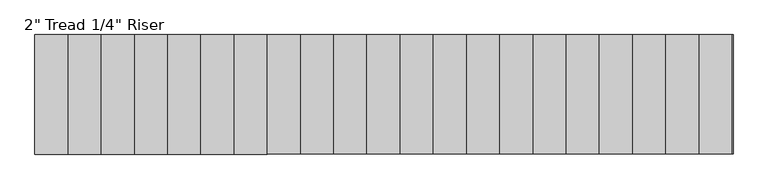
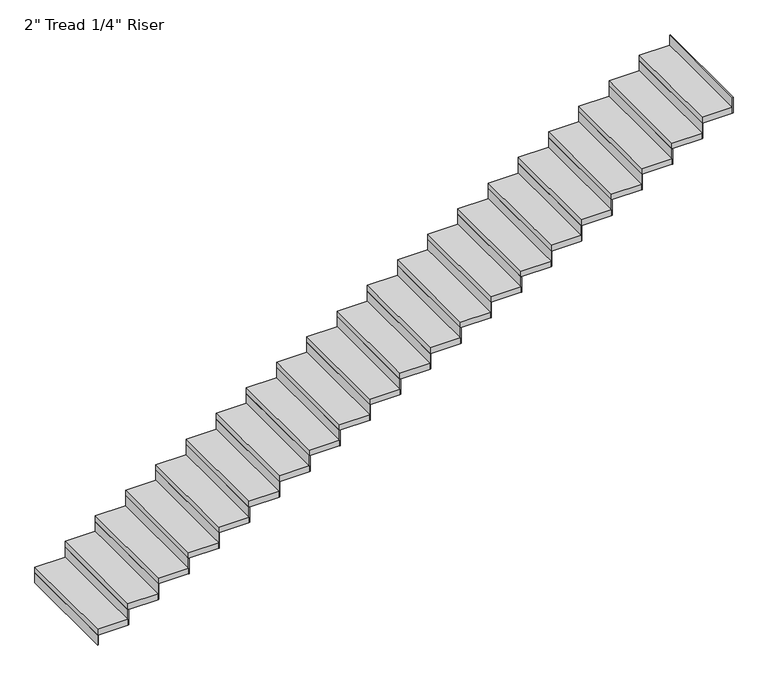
"""IFC4 building model written with IfcOpenShell, lengths in millimetres: stair flight geometry."""

import ifcopenshell
import ifcopenshell.guid

model = None  # the IFC model being written
_history = None  # IfcOwnerHistory: only IFC2X3 demands one
_inside = {}  # id of a spatial element -> (the spatial element, [elements in it])
_under = {}  # id of a project, library or spatial element -> (it, [spatial elements below it])
_declared = {}  # id of a project -> (the project, [libraries it declares])
_typed = {}  # id of a type object -> (the type object, [elements of that type])
_made_of = {}  # id of a material, layer set ... -> (it, [elements and type objects made of it])


def new_model(schema):
    """Start an empty IFC model of exactly this schema.

    Asked for "IFC4X3", IfcOpenShell would pick the latest addendum, in which some entities
    have other attributes; the version numbers below select the first issue.
    IFC2X3 requires an IfcOwnerHistory on every rooted entity: one is made here for all.
    """
    global model, _history
    if schema == "IFC4X3":
        model = ifcopenshell.file(schema_version=(4, 3, 0, 0))
    else:
        model = ifcopenshell.file(schema=schema)
    _inside.clear()
    _under.clear()
    _declared.clear()
    _typed.clear()
    _made_of.clear()
    _history = None
    if model.schema == "IFC2X3":
        org = make("IfcOrganization", Name="unknown")
        user = make(
            "IfcPersonAndOrganization",
            ThePerson=make("IfcPerson", FamilyName="unknown"),
            TheOrganization=org,
        )
        app = make(
            "IfcApplication",
            ApplicationDeveloper=org,
            Version="unknown",
            ApplicationFullName="unknown",
            ApplicationIdentifier="unknown",
        )
        _history = make(
            "IfcOwnerHistory",
            OwningUser=user,
            OwningApplication=app,
            ChangeAction="ADDED",
            CreationDate=0,
        )
    return model


def make(cls, **values):
    """One entity of the class cls with the attributes given. An attribute that is None is left unset."""
    return model.create_entity(
        cls, **{name: value for name, value in values.items() if value is not None}
    )


def rooted(cls, **values):
    """An entity with a GlobalId (a new one), such as an element, a storey or a relation."""
    return make(cls, GlobalId=ifcopenshell.guid.new(), OwnerHistory=_history, **values)


def si_unit(unit_type, name, prefix=None):
    """IfcSIUnit, for example si_unit("LENGTHUNIT", "METRE", prefix="MILLI")."""
    return make("IfcSIUnit", UnitType=unit_type, Prefix=prefix, Name=name)


def assignment(units):
    """IfcUnitAssignment: the units of a project."""
    return None if units is None else make("IfcUnitAssignment", Units=units)


def point(xyz):
    """IfcCartesianPoint."""
    return None if xyz is None else make("IfcCartesianPoint", Coordinates=xyz)


def direction(xyz):
    """IfcDirection."""
    return None if xyz is None else make("IfcDirection", DirectionRatios=xyz)


def frame(location, z_axis=None, x_axis=None):
    """IfcAxis2Placement3D, a coordinate frame: its origin and axes. An axis left out is left unset."""
    return make(
        "IfcAxis2Placement3D",
        Location=point(location),
        Axis=direction(z_axis),
        RefDirection=direction(x_axis),
    )


def origin():
    """The frame at (0, 0, 0) with its axes left unset."""
    return frame((0.0, 0.0, 0.0))


def origin_with_axes():
    """The frame at (0, 0, 0) with the z axis (0, 0, 1) and the x axis (1, 0, 0) written out."""
    return frame((0.0, 0.0, 0.0), z_axis=(0.0, 0.0, 1.0), x_axis=(1.0, 0.0, 0.0))


def place(relative_to, where):
    """IfcLocalPlacement: puts the frame where relative to a parent placement (None: the world)."""
    return make(
        "IfcLocalPlacement", PlacementRelTo=relative_to, RelativePlacement=where
    )


def context(
    kind, dimensions, precision=None, world=None, true_north=None, identifier=None
):
    """IfcGeometricRepresentationContext, for example the 3D "Model" context."""
    return make(
        "IfcGeometricRepresentationContext",
        ContextIdentifier=identifier,
        ContextType=kind,
        CoordinateSpaceDimension=dimensions,
        Precision=precision,
        WorldCoordinateSystem=world,
        TrueNorth=true_north,
    )


def project(units=None, contexts=None):
    """IfcProject with its units and contexts."""
    return rooted(
        "IfcProject",
        Name="project",
        RepresentationContexts=contexts,
        UnitsInContext=assignment(units),
    )


def spatial(cls, under=None, at=None, **own):
    """A site, building, storey or space (cls), placed at a placement, below another one or the project."""
    s = rooted(cls, ObjectPlacement=at, **own)
    if under is not None:
        _under.setdefault(under.id(), (under, []))[1].append(s)
    return s


def polyline(points):
    """IfcPolyline through the points."""
    return make("IfcPolyline", Points=[point(p) for p in points])


def outline(outer, holes=None, kind="AREA"):
    """IfcArbitraryClosedProfileDef: a profile drawn as a closed curve; with holes, ...WithVoids."""
    if holes is None:
        return make("IfcArbitraryClosedProfileDef", ProfileType=kind, OuterCurve=outer)
    return make(
        "IfcArbitraryProfileDefWithVoids",
        ProfileType=kind,
        OuterCurve=outer,
        InnerCurves=holes,
    )


def extrude(swept, where, along, depth):
    """IfcExtrudedAreaSolid: the profile swept, set in the frame where, extruded along a direction by depth."""
    return make(
        "IfcExtrudedAreaSolid",
        SweptArea=swept,
        Position=where,
        ExtrudedDirection=direction(along),
        Depth=depth,
    )


def shape(context_of_items, identifier, shape_type, items):
    """IfcShapeRepresentation: the items that make up one representation, for example the "Body"."""
    return make(
        "IfcShapeRepresentation",
        ContextOfItems=context_of_items,
        RepresentationIdentifier=identifier,
        RepresentationType=shape_type,
        Items=items,
    )


def source(mapping_origin, context_of_items, identifier, shape_type, items):
    """IfcRepresentationMap: a shape defined once, which mapped items show again and again."""
    return make(
        "IfcRepresentationMap",
        MappingOrigin=mapping_origin,
        MappedRepresentation=shape(context_of_items, identifier, shape_type, items),
    )


def transform(
    local_origin,
    x_axis=None,
    y_axis=None,
    z_axis=None,
    scale=None,
    scale2=None,
    scale3=None,
    uniform=True,
):
    """IfcCartesianTransformationOperator3D, or its non-uniform kind. x_axis, y_axis, z_axis: its Axis1, 2, 3."""
    if uniform:
        return make(
            "IfcCartesianTransformationOperator3D",
            Axis1=direction(x_axis),
            Axis2=direction(y_axis),
            LocalOrigin=point(local_origin),
            Scale=scale,
            Axis3=direction(z_axis),
        )
    return make(
        "IfcCartesianTransformationOperator3DnonUniform",
        Axis1=direction(x_axis),
        Axis2=direction(y_axis),
        LocalOrigin=point(local_origin),
        Scale=scale,
        Axis3=direction(z_axis),
        Scale2=scale2,
        Scale3=scale3,
    )


def mapped(mapping_source, mapping_target):
    """IfcMappedItem: shows the shape of a source again, moved by a transform."""
    return make(
        "IfcMappedItem", MappingSource=mapping_source, MappingTarget=mapping_target
    )


def made_of(thing, what):
    """Note that an element or type object is made of a material, layer set ...; save() writes the relation."""
    if what is not None:
        _made_of.setdefault(what.id(), (what, []))[1].append(thing)
    return thing


def element(
    cls,
    number,
    at=None,
    inside=None,
    cuts=None,
    type_object=None,
    material=None,
    context=None,
    identifier="Body",
    shape_type=None,
    held_by="IfcProductDefinitionShape",
    body=None,
    shapes=None,
    **own,
):
    """One element of the class cls, such as IfcWall. Its Tag is "e" and its number.

    at: its placement. inside: the storey or other place that contains it. cuts: it is an
    opening in that element (IfcRelVoidsElement). A single representation is given by context,
    identifier, shape_type and body (its items); several are given by shapes. held_by: the class
    of the entity that holds the representations. save() writes the other relations.
    """
    e = rooted(cls, Tag="e%d" % number, ObjectPlacement=at, **own)
    if body is not None:
        shapes = [shape(context, identifier, shape_type, body)]
    if shapes is not None:
        e.Representation = make(held_by, Representations=shapes)
    if inside is not None:
        _inside.setdefault(inside.id(), (inside, []))[1].append(e)
    if cuts is not None:
        rooted(
            "IfcRelVoidsElement", RelatingBuildingElement=cuts, RelatedOpeningElement=e
        )
    if type_object is not None:
        _typed.setdefault(type_object.id(), (type_object, []))[1].append(e)
    return made_of(e, material)


def aggregate(whole, parts):
    """IfcRelAggregates: a whole, such as a stair, and the parts it consists of."""
    return rooted("IfcRelAggregates", RelatingObject=whole, RelatedObjects=parts)


def save(model, path):
    """Write the relations noted so far, then the file.

    IfcRelAggregates (storeys below a building ...), IfcRelContainedInSpatialStructure (elements
    in a storey), IfcRelDefinesByType, IfcRelAssociatesMaterial and IfcRelDeclares: one each for
    every whole, place, type object, material and project.
    """
    for whole, parts in _under.values():
        aggregate(whole, parts)
    for where, things in _inside.values():
        rooted(
            "IfcRelContainedInSpatialStructure",
            RelatedElements=things,
            RelatingStructure=where,
        )
    for kind, things in _typed.values():
        rooted("IfcRelDefinesByType", RelatedObjects=things, RelatingType=kind)
    for what, things in _made_of.values():
        rooted("IfcRelAssociatesMaterial", RelatedObjects=things, RelatingMaterial=what)
    for by, libraries in _declared.values():
        rooted("IfcRelDeclares", RelatingContext=by, RelatedDefinitions=libraries)
    model.write(path)


def stair_flight_99901bd0(model_context):
    return source(origin(), model_context, "Body", "SweptSolid", [
        extrude(outline(polyline([(60465.3810647, -70024.4426165), (60459.0310647, -70024.4426165), (60459.0310647, -69110.0426165), (60465.3810647, -69110.0426165), (60465.3810647, -70024.4426165)])), origin_with_axes(), (0.0, 0.0, 1.0), 87.7454545),
        extrude(outline(polyline([(60713.0310647, -69110.0426165), (60713.0310647, -70024.4426165), (60459.0310647, -70024.4426165), (60459.0310647, -69110.0426165), (60713.0310647, -69110.0426165)])), frame((0.0, 0.0, 87.7454545), z_axis=(0.0, 0.0, 1.0), x_axis=(1.0, 0.0, 0.0)), (0.0, 0.0, 1.0), 50.8),
        extrude(outline(polyline([(60719.3810647, -70024.4426165), (60713.0310647, -70024.4426165), (60713.0310647, -69110.0426165), (60719.3810647, -69110.0426165), (60719.3810647, -70024.4426165)])), frame((0.0, 0.0, 87.7454545), z_axis=(0.0, 0.0, 1.0), x_axis=(1.0, 0.0, 0.0)), (0.0, 0.0, 1.0), 138.5454545),
        extrude(outline(polyline([(60967.0310647, -69110.0426165), (60967.0310647, -70024.4426165), (60713.0310647, -70024.4426165), (60713.0310647, -69110.0426165), (60967.0310647, -69110.0426165)])), frame((0.0, 0.0, 226.2909091), z_axis=(0.0, 0.0, 1.0), x_axis=(1.0, 0.0, 0.0)), (0.0, 0.0, 1.0), 50.8),
        extrude(outline(polyline([(60973.3810647, -70024.4426165), (60967.0310647, -70024.4426165), (60967.0310647, -69110.0426165), (60973.3810647, -69110.0426165), (60973.3810647, -70024.4426165)])), frame((0.0, 0.0, 226.2909091), z_axis=(0.0, 0.0, 1.0), x_axis=(1.0, 0.0, 0.0)), (0.0, 0.0, 1.0), 138.5454545),
        extrude(outline(polyline([(61221.0310647, -69110.0426165), (61221.0310647, -70024.4426165), (60967.0310647, -70024.4426165), (60967.0310647, -69110.0426165), (61221.0310647, -69110.0426165)])), frame((0.0, 0.0, 364.8363636), z_axis=(0.0, 0.0, 1.0), x_axis=(1.0, 0.0, 0.0)), (0.0, 0.0, 1.0), 50.8),
        extrude(outline(polyline([(61227.3810647, -70024.4426165), (61221.0310647, -70024.4426165), (61221.0310647, -69110.0426165), (61227.3810647, -69110.0426165), (61227.3810647, -70024.4426165)])), frame((0.0, 0.0, 364.8363636), z_axis=(0.0, 0.0, 1.0), x_axis=(1.0, 0.0, 0.0)), (0.0, 0.0, 1.0), 138.5454545),
        extrude(outline(polyline([(61475.0310647, -69110.0426165), (61475.0310647, -70024.4426165), (61221.0310647, -70024.4426165), (61221.0310647, -69110.0426165), (61475.0310647, -69110.0426165)])), frame((0.0, 0.0, 503.3818182), z_axis=(0.0, 0.0, 1.0), x_axis=(1.0, 0.0, 0.0)), (0.0, 0.0, 1.0), 50.8),
        extrude(outline(polyline([(61481.3810647, -70024.4426165), (61475.0310647, -70024.4426165), (61475.0310647, -69110.0426165), (61481.3810647, -69110.0426165), (61481.3810647, -70024.4426165)])), frame((0.0, 0.0, 503.3818182), z_axis=(0.0, 0.0, 1.0), x_axis=(1.0, 0.0, 0.0)), (0.0, 0.0, 1.0), 138.5454545),
        extrude(outline(polyline([(61729.0310647, -69110.0426165), (61729.0310647, -70024.4426165), (61475.0310647, -70024.4426165), (61475.0310647, -69110.0426165), (61729.0310647, -69110.0426165)])), frame((0.0, 0.0, 641.9272727), z_axis=(0.0, 0.0, 1.0), x_axis=(1.0, 0.0, 0.0)), (0.0, 0.0, 1.0), 50.8),
        extrude(outline(polyline([(61735.3810647, -70024.4426165), (61729.0310647, -70024.4426165), (61729.0310647, -69110.0426165), (61735.3810647, -69110.0426165), (61735.3810647, -70024.4426165)])), frame((0.0, 0.0, 641.9272727), z_axis=(0.0, 0.0, 1.0), x_axis=(1.0, 0.0, 0.0)), (0.0, 0.0, 1.0), 138.5454545),
        extrude(outline(polyline([(61983.0310647, -69110.0426165), (61983.0310647, -70024.4426165), (61729.0310647, -70024.4426165), (61729.0310647, -69110.0426165), (61983.0310647, -69110.0426165)])), frame((0.0, 0.0, 780.4727273), z_axis=(0.0, 0.0, 1.0), x_axis=(1.0, 0.0, 0.0)), (0.0, 0.0, 1.0), 50.8),
        extrude(outline(polyline([(61989.3810647, -70024.4426165), (61983.0310647, -70024.4426165), (61983.0310647, -69110.0426165), (61989.3810647, -69110.0426165), (61989.3810647, -70024.4426165)])), frame((0.0, 0.0, 780.4727273), z_axis=(0.0, 0.0, 1.0), x_axis=(1.0, 0.0, 0.0)), (0.0, 0.0, 1.0), 138.5454545),
        extrude(outline(polyline([(62237.0310647, -69110.0426165), (62237.0310647, -70024.4426165), (61983.0310647, -70024.4426165), (61983.0310647, -69110.0426165), (62237.0310647, -69110.0426165)])), frame((0.0, 0.0, 919.0181818), z_axis=(0.0, 0.0, 1.0), x_axis=(1.0, 0.0, 0.0)), (0.0, 0.0, 1.0), 50.8),
        extrude(outline(polyline([(62243.3810647, -70024.4426165), (62237.0310647, -70024.4426165), (62237.0310647, -69110.0426165), (62243.3810647, -69110.0426165), (62243.3810647, -70024.4426165)])), frame((0.0, 0.0, 919.0181818), z_axis=(0.0, 0.0, 1.0), x_axis=(1.0, 0.0, 0.0)), (0.0, 0.0, 1.0), 138.5454545),
        extrude(outline(polyline([(62491.0310647, -69110.0426165), (62491.0310647, -70024.4426165), (62237.0310647, -70024.4426165), (62237.0310647, -69110.0426165), (62491.0310647, -69110.0426165)])), frame((0.0, 0.0, 1057.5636364), z_axis=(0.0, 0.0, 1.0), x_axis=(1.0, 0.0, 0.0)), (0.0, 0.0, 1.0), 50.8),
        extrude(outline(polyline([(62497.3810647, -70024.4426165), (62491.0310647, -70024.4426165), (62491.0310647, -69110.0426165), (62497.3810647, -69110.0426165), (62497.3810647, -70024.4426165)])), frame((0.0, 0.0, 1057.5636364), z_axis=(0.0, 0.0, 1.0), x_axis=(1.0, 0.0, 0.0)), (0.0, 0.0, 1.0), 138.5454545),
        extrude(outline(polyline([(62745.0310647, -69110.0426165), (62745.0310647, -70024.4426165), (62491.0310647, -70024.4426165), (62491.0310647, -69110.0426165), (62745.0310647, -69110.0426165)])), frame((0.0, 0.0, 1196.1090909), z_axis=(0.0, 0.0, 1.0), x_axis=(1.0, 0.0, 0.0)), (0.0, 0.0, 1.0), 50.8),
        extrude(outline(polyline([(62751.3810647, -70024.4426165), (62745.0310647, -70024.4426165), (62745.0310647, -69110.0426165), (62751.3810647, -69110.0426165), (62751.3810647, -70024.4426165)])), frame((0.0, 0.0, 1196.1090909), z_axis=(0.0, 0.0, 1.0), x_axis=(1.0, 0.0, 0.0)), (0.0, 0.0, 1.0), 138.5454545),
        extrude(outline(polyline([(62999.0310647, -69110.0426165), (62999.0310647, -70024.4426165), (62745.0310647, -70024.4426165), (62745.0310647, -69110.0426165), (62999.0310647, -69110.0426165)])), frame((0.0, 0.0, 1334.6545455), z_axis=(0.0, 0.0, 1.0), x_axis=(1.0, 0.0, 0.0)), (0.0, 0.0, 1.0), 50.8),
        extrude(outline(polyline([(63005.3810647, -70024.4426165), (62999.0310647, -70024.4426165), (62999.0310647, -69110.0426165), (63005.3810647, -69110.0426165), (63005.3810647, -70024.4426165)])), frame((0.0, 0.0, 1334.6545455), z_axis=(0.0, 0.0, 1.0), x_axis=(1.0, 0.0, 0.0)), (0.0, 0.0, 1.0), 138.5454545),
        extrude(outline(polyline([(63253.0310647, -69110.0426165), (63253.0310647, -70024.4426165), (62999.0310647, -70024.4426165), (62999.0310647, -69110.0426165), (63253.0310647, -69110.0426165)])), frame((0.0, 0.0, 1473.2), z_axis=(0.0, 0.0, 1.0), x_axis=(1.0, 0.0, 0.0)), (0.0, 0.0, 1.0), 50.8),
        extrude(outline(polyline([(63259.3810647, -70024.4426165), (63253.0310647, -70024.4426165), (63253.0310647, -69110.0426165), (63259.3810647, -69110.0426165), (63259.3810647, -70024.4426165)])), frame((0.0, 0.0, 1473.2), z_axis=(0.0, 0.0, 1.0), x_axis=(1.0, 0.0, 0.0)), (0.0, 0.0, 1.0), 138.5454545),
        extrude(outline(polyline([(63507.0310647, -69110.0426165), (63507.0310647, -70024.4426165), (63253.0310647, -70024.4426165), (63253.0310647, -69110.0426165), (63507.0310647, -69110.0426165)])), frame((0.0, 0.0, 1611.7454545), z_axis=(0.0, 0.0, 1.0), x_axis=(1.0, 0.0, 0.0)), (0.0, 0.0, 1.0), 50.8),
        extrude(outline(polyline([(63513.3810647, -70024.4426165), (63507.0310647, -70024.4426165), (63507.0310647, -69110.0426165), (63513.3810647, -69110.0426165), (63513.3810647, -70024.4426165)])), frame((0.0, 0.0, 1611.7454545), z_axis=(0.0, 0.0, 1.0), x_axis=(1.0, 0.0, 0.0)), (0.0, 0.0, 1.0), 138.5454545),
        extrude(outline(polyline([(63761.0310647, -69110.0426165), (63761.0310647, -70024.4426165), (63507.0310647, -70024.4426165), (63507.0310647, -69110.0426165), (63761.0310647, -69110.0426165)])), frame((0.0, 0.0, 1750.2909091), z_axis=(0.0, 0.0, 1.0), x_axis=(1.0, 0.0, 0.0)), (0.0, 0.0, 1.0), 50.8),
        extrude(outline(polyline([(63767.3810647, -70024.4426165), (63761.0310647, -70024.4426165), (63761.0310647, -69110.0426165), (63767.3810647, -69110.0426165), (63767.3810647, -70024.4426165)])), frame((0.0, 0.0, 1750.2909091), z_axis=(0.0, 0.0, 1.0), x_axis=(1.0, 0.0, 0.0)), (0.0, 0.0, 1.0), 138.5454545),
        extrude(outline(polyline([(64015.0310647, -69110.0426165), (64015.0310647, -70024.4426165), (63761.0310647, -70024.4426165), (63761.0310647, -69110.0426165), (64015.0310647, -69110.0426165)])), frame((0.0, 0.0, 1888.8363636), z_axis=(0.0, 0.0, 1.0), x_axis=(1.0, 0.0, 0.0)), (0.0, 0.0, 1.0), 50.8),
        extrude(outline(polyline([(64021.3810647, -70024.4426165), (64015.0310647, -70024.4426165), (64015.0310647, -69110.0426165), (64021.3810647, -69110.0426165), (64021.3810647, -70024.4426165)])), frame((0.0, 0.0, 1888.8363636), z_axis=(0.0, 0.0, 1.0), x_axis=(1.0, 0.0, 0.0)), (0.0, 0.0, 1.0), 138.5454545),
        extrude(outline(polyline([(64269.0310647, -69110.0426165), (64269.0310647, -70024.4426165), (64015.0310647, -70024.4426165), (64015.0310647, -69110.0426165), (64269.0310647, -69110.0426165)])), frame((0.0, 0.0, 2027.3818182), z_axis=(0.0, 0.0, 1.0), x_axis=(1.0, 0.0, 0.0)), (0.0, 0.0, 1.0), 50.8),
        extrude(outline(polyline([(64275.3810647, -70024.4426165), (64269.0310647, -70024.4426165), (64269.0310647, -69110.0426165), (64275.3810647, -69110.0426165), (64275.3810647, -70024.4426165)])), frame((0.0, 0.0, 2027.3818182), z_axis=(0.0, 0.0, 1.0), x_axis=(1.0, 0.0, 0.0)), (0.0, 0.0, 1.0), 138.5454545),
        extrude(outline(polyline([(64523.0310647, -69110.0426165), (64523.0310647, -70024.4426165), (64269.0310647, -70024.4426165), (64269.0310647, -69110.0426165), (64523.0310647, -69110.0426165)])), frame((0.0, 0.0, 2165.9272727), z_axis=(0.0, 0.0, 1.0), x_axis=(1.0, 0.0, 0.0)), (0.0, 0.0, 1.0), 50.8),
        extrude(outline(polyline([(64529.3810647, -70024.4426165), (64523.0310647, -70024.4426165), (64523.0310647, -69110.0426165), (64529.3810647, -69110.0426165), (64529.3810647, -70024.4426165)])), frame((0.0, 0.0, 2165.9272727), z_axis=(0.0, 0.0, 1.0), x_axis=(1.0, 0.0, 0.0)), (0.0, 0.0, 1.0), 138.5454545),
        extrude(outline(polyline([(64777.0310647, -69110.0426165), (64777.0310647, -70024.4426165), (64523.0310647, -70024.4426165), (64523.0310647, -69110.0426165), (64777.0310647, -69110.0426165)])), frame((0.0, 0.0, 2304.4727273), z_axis=(0.0, 0.0, 1.0), x_axis=(1.0, 0.0, 0.0)), (0.0, 0.0, 1.0), 50.8),
        extrude(outline(polyline([(64783.3810647, -70024.4426165), (64777.0310647, -70024.4426165), (64777.0310647, -69110.0426165), (64783.3810647, -69110.0426165), (64783.3810647, -70024.4426165)])), frame((0.0, 0.0, 2304.4727273), z_axis=(0.0, 0.0, 1.0), x_axis=(1.0, 0.0, 0.0)), (0.0, 0.0, 1.0), 138.5454545),
        extrude(outline(polyline([(65031.0310647, -69110.0426165), (65031.0310647, -70024.4426165), (64777.0310647, -70024.4426165), (64777.0310647, -69110.0426165), (65031.0310647, -69110.0426165)])), frame((0.0, 0.0, 2443.0181818), z_axis=(0.0, 0.0, 1.0), x_axis=(1.0, 0.0, 0.0)), (0.0, 0.0, 1.0), 50.8),
        extrude(outline(polyline([(65037.3810647, -70024.4426165), (65031.0310647, -70024.4426165), (65031.0310647, -69110.0426165), (65037.3810647, -69110.0426165), (65037.3810647, -70024.4426165)])), frame((0.0, 0.0, 2443.0181818), z_axis=(0.0, 0.0, 1.0), x_axis=(1.0, 0.0, 0.0)), (0.0, 0.0, 1.0), 138.5454545),
        extrude(outline(polyline([(65285.0310647, -69110.0426165), (65285.0310647, -70024.4426165), (65031.0310647, -70024.4426165), (65031.0310647, -69110.0426165), (65285.0310647, -69110.0426165)])), frame((0.0, 0.0, 2581.5636364), z_axis=(0.0, 0.0, 1.0), x_axis=(1.0, 0.0, 0.0)), (0.0, 0.0, 1.0), 50.8),
        extrude(outline(polyline([(65291.3810647, -70024.4426165), (65285.0310647, -70024.4426165), (65285.0310647, -69110.0426165), (65291.3810647, -69110.0426165), (65291.3810647, -70024.4426165)])), frame((0.0, 0.0, 2581.5636364), z_axis=(0.0, 0.0, 1.0), x_axis=(1.0, 0.0, 0.0)), (0.0, 0.0, 1.0), 138.5454545),
        extrude(outline(polyline([(65539.0310647, -69110.0426165), (65539.0310647, -70024.4426165), (65285.0310647, -70024.4426165), (65285.0310647, -69110.0426165), (65539.0310647, -69110.0426165)])), frame((0.0, 0.0, 2720.1090909), z_axis=(0.0, 0.0, 1.0), x_axis=(1.0, 0.0, 0.0)), (0.0, 0.0, 1.0), 50.8),
        extrude(outline(polyline([(65545.3810647, -70024.4426165), (65539.0310647, -70024.4426165), (65539.0310647, -69110.0426165), (65545.3810647, -69110.0426165), (65545.3810647, -70024.4426165)])), frame((0.0, 0.0, 2720.1090909), z_axis=(0.0, 0.0, 1.0), x_axis=(1.0, 0.0, 0.0)), (0.0, 0.0, 1.0), 138.5454545),
        extrude(outline(polyline([(65799.3810647, -70024.4426165), (65793.0310647, -70024.4426165), (65793.0310647, -69110.0426165), (65799.3810647, -69110.0426165), (65799.3810647, -70024.4426165)])), frame((0.0, 0.0, 2858.6545455), z_axis=(0.0, 0.0, 1.0), x_axis=(1.0, 0.0, 0.0)), (0.0, 0.0, 1.0), 138.5454545),
        extrude(outline(polyline([(65793.0310647, -69110.0426165), (65793.0310647, -70024.4426165), (65539.0310647, -70024.4426165), (65539.0310647, -69110.0426165), (65793.0310647, -69110.0426165)])), frame((0.0, 0.0, 2858.6545455), z_axis=(0.0, 0.0, 1.0), x_axis=(1.0, 0.0, 0.0)), (0.0, 0.0, 1.0), 50.8),
    ])


if __name__ == "__main__":
    model = new_model("IFC4")
    model_context = context("Model", 3, world=origin())
    ifc_project = project(units=[si_unit("LENGTHUNIT", "METRE", prefix="MILLI")], contexts=[model_context])
    site = spatial("IfcSite", under=ifc_project)
    building = spatial("IfcBuilding", under=site)
    placement = place(None, origin())
    stair_flight_shape = stair_flight_99901bd0(model_context)
    element("IfcStairFlight", 1, ObjectType="2\" Tread 1/4\" Riser", at=placement, inside=building, context=model_context, shape_type="MappedRepresentation", body=[
        mapped(stair_flight_shape, transform((0.0, 0.0, 0.0), x_axis=(1.0, 0.0, 0.0), y_axis=(0.0, 1.0, 0.0), z_axis=(0.0, 0.0, 1.0))),
    ])
    save(model, "model.ifc")
